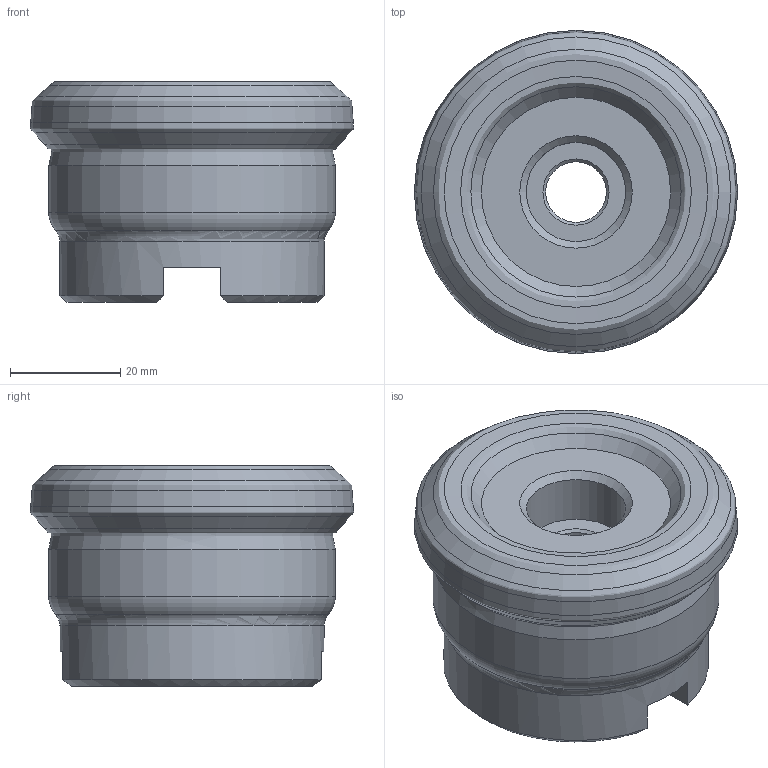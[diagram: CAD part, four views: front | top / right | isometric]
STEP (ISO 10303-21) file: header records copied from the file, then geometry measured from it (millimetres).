
FILE_DESCRIPTION(/* description */ (''),/* implementation_level */ '2;1');
FILE_NAME(/* name */ 'Stp.stp',/* time_stamp */ '2021-03-16T01:50:52+08:00',/* author */ (''),/* organization */ (''),/* preprocessor_version */ 'ST-DEVELOPER v16.7',/* originating_system */ 'SIEMENS PLM Software NX 12.0',/* authorisation */ '');
FILE_SCHEMA (('AUTOMOTIVE_DESIGN { 1 0 10303 214 3 1 1 1 }'));
Length unit declared in the file: millimetre
Products named in the file (2): OFKT05T3-DM; FMA04-050-A22-OF05-05_S
Assembly tree (5 placements, depth 2):
  FMA04-050-A22-OF05-05_S
    OFKT05T3-DM  x5
Bounding box: 58.66 x 58.66 x 40.06 mm (x, y, z)
Volume: 82449.1 mm3; surface area: 18539.8 mm2
Topology: 2 solids, 2 shells, 51 faces, 112 edges, 65 vertices
Faces by surface type: plane 16, revolution 16, cone 10, cylinder 6, torus 3
Full cylindrical faces by diameter (mm): 11 x1, 18 x1, 22 x1, 24.4 x1, 48 x1, 52 x1
Entity records: 1589 total; most frequent: CARTESIAN_POINT 414, DIRECTION 218, ORIENTED_EDGE 148, AXIS2_PLACEMENT_3D 91, EDGE_LOOP 88, FACE_BOUND 74, EDGE_CURVE 74, VERTEX_POINT 60
